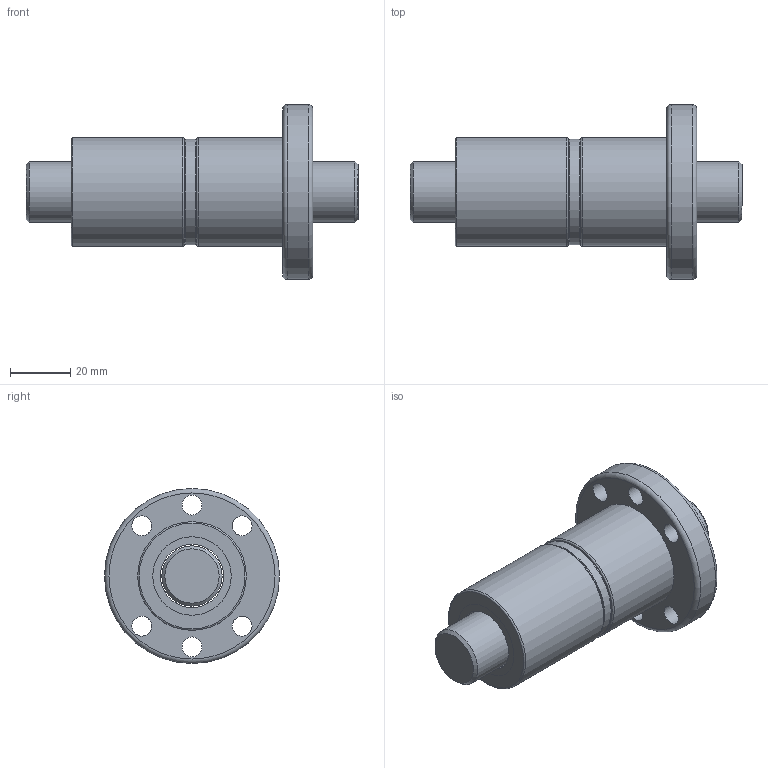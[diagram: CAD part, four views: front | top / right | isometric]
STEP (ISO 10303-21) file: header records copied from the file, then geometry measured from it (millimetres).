
FILE_DESCRIPTION(/* description */ (''),/* implementation_level */ '2;1');
FILE_NAME(/* name */ 'DFU2004',/* time_stamp */ '2007-10-26T10:52:56+08:00',/* author */ (''),/* organization */ (''),/* preprocessor_version */ 'ST-DEVELOPER v9',/* originating_system */ 'EDS PLM SOLUTIONS - UNIGRAPHICS NX 1.0',/* authorisation */ '');
FILE_SCHEMA (('CONFIG_CONTROL_DESIGN'));
Length unit declared in the file: millimetre
Products named in the file (1): FANNDA0400cm
Bounding box: 110 x 58 x 58 mm (x, y, z)
Volume: 101980.5 mm3; surface area: 32482.1 mm2
Topology: 6 solids, 6 shells, 44 faces, 83 edges, 54 vertices
Faces by surface type: cylinder 20, plane 15, torus 7, cone 2
Full cylindrical faces by diameter (mm): 6.6 x6, 20 x1, 21 x5, 26 x4, 35 x1, 36 x2, 58 x1
Entity records: 1054 total; most frequent: DIRECTION 188, CARTESIAN_POINT 143, EDGE_LOOP 98, ORIENTED_EDGE 98, AXIS2_PLACEMENT_3D 94, FACE_BOUND 81, VERTEX_POINT 49, EDGE_CURVE 49
